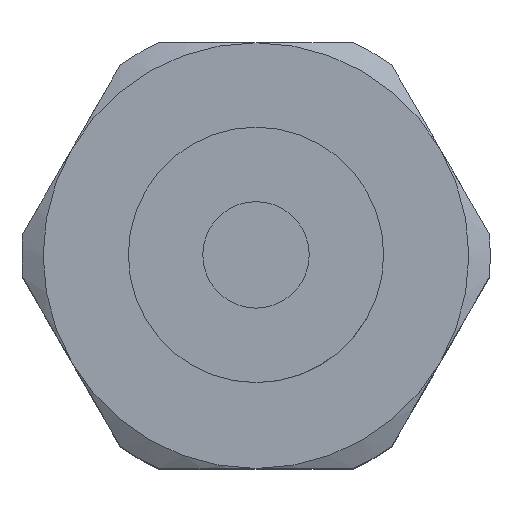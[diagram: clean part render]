
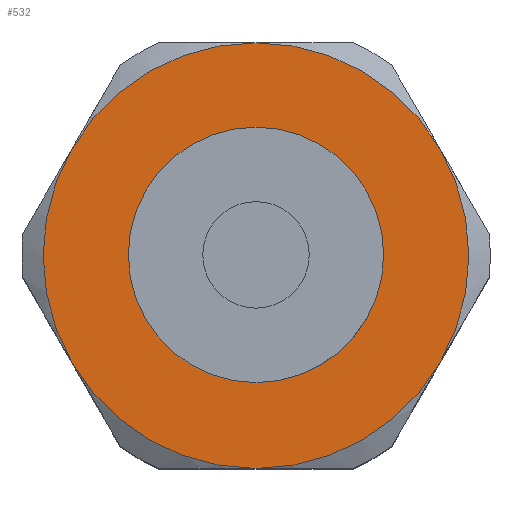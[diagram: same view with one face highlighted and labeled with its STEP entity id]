
A CAD part, top view. The second image highlights one B-rep face of the part: STEP entity #532.
In plain terms, the highlighted planar face has unit normal (0, 0, 1) as drawn and (1, 0, 0) by its records, which use the part's own axes.
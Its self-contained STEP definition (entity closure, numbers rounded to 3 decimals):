
#101=PLANE('',#592);
#119=FACE_BOUND('',#183,.T.);
#133=FACE_OUTER_BOUND('',#182,.T.);
#182=EDGE_LOOP('',(#393,#394,#395,#396,#397,#398));
#183=EDGE_LOOP('',(#399));
#225=CIRCLE('',#591,2.8);
#226=CIRCLE('',#593,5.);
#227=CIRCLE('',#594,5.);
#228=CIRCLE('',#595,5.);
#229=CIRCLE('',#596,5.);
#230=CIRCLE('',#597,5.);
#231=CIRCLE('',#598,5.);
#261=VERTEX_POINT('',#860);
#262=VERTEX_POINT('',#863);
#263=VERTEX_POINT('',#864);
#264=VERTEX_POINT('',#866);
#265=VERTEX_POINT('',#868);
#266=VERTEX_POINT('',#870);
#267=VERTEX_POINT('',#872);
#309=EDGE_CURVE('',#261,#261,#225,.T.);
#310=EDGE_CURVE('',#262,#263,#226,.T.);
#311=EDGE_CURVE('',#263,#264,#227,.T.);
#312=EDGE_CURVE('',#264,#265,#228,.T.);
#313=EDGE_CURVE('',#265,#266,#229,.T.);
#314=EDGE_CURVE('',#266,#267,#230,.T.);
#315=EDGE_CURVE('',#267,#262,#231,.T.);
#393=ORIENTED_EDGE('',*,*,#310,.T.);
#394=ORIENTED_EDGE('',*,*,#311,.T.);
#395=ORIENTED_EDGE('',*,*,#312,.T.);
#396=ORIENTED_EDGE('',*,*,#313,.T.);
#397=ORIENTED_EDGE('',*,*,#314,.T.);
#398=ORIENTED_EDGE('',*,*,#315,.T.);
#399=ORIENTED_EDGE('',*,*,#309,.F.);
#532=ADVANCED_FACE('',(#133,#119),#101,.T.);
#591=AXIS2_PLACEMENT_3D('',#861,#703,#704);
#592=AXIS2_PLACEMENT_3D('',#862,#705,#706);
#593=AXIS2_PLACEMENT_3D('',#865,#707,#708);
#594=AXIS2_PLACEMENT_3D('',#867,#709,#710);
#595=AXIS2_PLACEMENT_3D('',#869,#711,#712);
#596=AXIS2_PLACEMENT_3D('',#871,#713,#714);
#597=AXIS2_PLACEMENT_3D('',#873,#715,#716);
#598=AXIS2_PLACEMENT_3D('',#874,#717,#718);
#703=DIRECTION('center_axis',(1.,0.,0.));
#704=DIRECTION('ref_axis',(0.,-1.,0.));
#705=DIRECTION('center_axis',(1.,0.,0.));
#706=DIRECTION('ref_axis',(0.,0.,-1.));
#707=DIRECTION('center_axis',(1.,0.,0.));
#708=DIRECTION('ref_axis',(0.,1.,0.));
#709=DIRECTION('center_axis',(1.,0.,0.));
#710=DIRECTION('ref_axis',(0.,1.,0.));
#711=DIRECTION('center_axis',(1.,0.,0.));
#712=DIRECTION('ref_axis',(0.,1.,0.));
#713=DIRECTION('center_axis',(1.,0.,0.));
#714=DIRECTION('ref_axis',(0.,1.,0.));
#715=DIRECTION('center_axis',(1.,0.,0.));
#716=DIRECTION('ref_axis',(0.,1.,0.));
#717=DIRECTION('center_axis',(1.,0.,0.));
#718=DIRECTION('ref_axis',(0.,1.,0.));
#860=CARTESIAN_POINT('',(1.5,2.8,0.));
#861=CARTESIAN_POINT('Origin',(1.5,0.,0.));
#862=CARTESIAN_POINT('Origin',(1.5,3.75,0.));
#863=CARTESIAN_POINT('',(1.5,5.,0.));
#864=CARTESIAN_POINT('',(1.5,2.5,4.33));
#865=CARTESIAN_POINT('Origin',(1.5,0.,0.));
#866=CARTESIAN_POINT('',(1.5,-2.5,4.33));
#867=CARTESIAN_POINT('Origin',(1.5,0.,0.));
#868=CARTESIAN_POINT('',(1.5,-5.,0.));
#869=CARTESIAN_POINT('Origin',(1.5,0.,0.));
#870=CARTESIAN_POINT('',(1.5,-2.5,-4.33));
#871=CARTESIAN_POINT('Origin',(1.5,0.,0.));
#872=CARTESIAN_POINT('',(1.5,2.5,-4.33));
#873=CARTESIAN_POINT('Origin',(1.5,0.,0.));
#874=CARTESIAN_POINT('Origin',(1.5,0.,0.));
